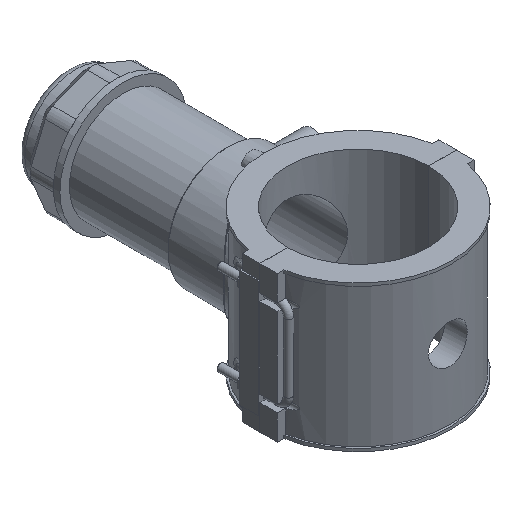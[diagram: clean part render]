
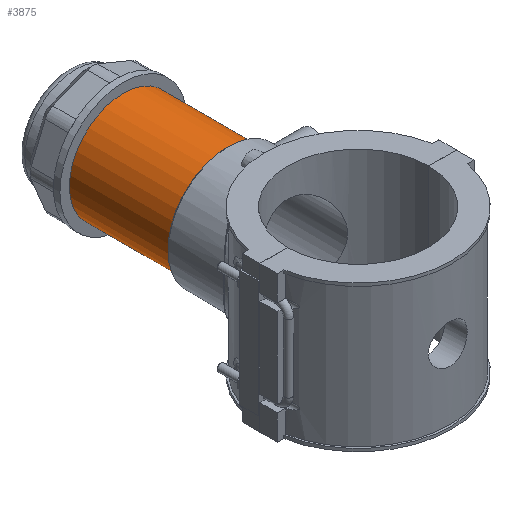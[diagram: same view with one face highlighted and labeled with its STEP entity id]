
A CAD part, isometric view. The second image highlights one B-rep face of the part: STEP entity #3875.
In plain terms, the highlighted cylindrical face has radius 43.643 mm (diameter 87.287 mm), a full revolution.
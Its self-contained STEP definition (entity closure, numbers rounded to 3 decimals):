
#57=FACE_BOUND('',#568,.T.);
#85=B_SPLINE_CURVE_WITH_KNOTS('',3,(#5797,#5798,#5799,#5800,#5801,#5802,
#5803,#5804,#5805,#5806),.UNSPECIFIED.,.F.,.F.,(4,2,2,2,4),(0.,0.401,
0.802,1.203,1.604),.UNSPECIFIED.);
#86=B_SPLINE_CURVE_WITH_KNOTS('',3,(#5807,#5808,#5809,#5810,#5811,#5812,
#5813,#5814,#5815,#5816,#5817,#5818,#5819,#5820,#5821,#5822,#5823,#5824,
#5825,#5826,#5827,#5828,#5829,#5830,#5831,#5832),.UNSPECIFIED.,.F.,.F.,
(4,2,2,2,2,2,2,2,2,2,2,2,4),(1.604,2.005,2.406,
2.807,3.208,3.609,4.01,4.411,
4.812,5.213,5.614,6.015,6.416),
 .UNSPECIFIED.);
#347=FACE_OUTER_BOUND('',#567,.T.);
#567=EDGE_LOOP('',(#2858,#2859,#2860,#2861,#2862,#2863));
#568=EDGE_LOOP('',(#2864,#2865));
#798=CIRCLE('',#4156,43.643);
#799=CIRCLE('',#4157,43.643);
#812=CIRCLE('',#4184,43.643);
#813=CIRCLE('',#4185,43.643);
#987=LINE('',#6082,#1326);
#1326=VECTOR('',#4773,43.643);
#1624=VERTEX_POINT('',#5794);
#1625=VERTEX_POINT('',#5796);
#1687=VERTEX_POINT('',#6023);
#1688=VERTEX_POINT('',#6024);
#1702=VERTEX_POINT('',#6078);
#1703=VERTEX_POINT('',#6079);
#2011=EDGE_CURVE('',#1625,#1624,#85,.T.);
#2012=EDGE_CURVE('',#1624,#1625,#86,.T.);
#2107=EDGE_CURVE('',#1687,#1688,#798,.T.);
#2108=EDGE_CURVE('',#1688,#1687,#799,.T.);
#2133=EDGE_CURVE('',#1702,#1703,#812,.T.);
#2134=EDGE_CURVE('',#1703,#1702,#813,.T.);
#2135=EDGE_CURVE('',#1703,#1688,#987,.T.);
#2858=ORIENTED_EDGE('',*,*,#2133,.F.);
#2859=ORIENTED_EDGE('',*,*,#2134,.F.);
#2860=ORIENTED_EDGE('',*,*,#2135,.T.);
#2861=ORIENTED_EDGE('',*,*,#2108,.T.);
#2862=ORIENTED_EDGE('',*,*,#2107,.T.);
#2863=ORIENTED_EDGE('',*,*,#2135,.F.);
#2864=ORIENTED_EDGE('',*,*,#2011,.T.);
#2865=ORIENTED_EDGE('',*,*,#2012,.T.);
#3776=CYLINDRICAL_SURFACE('',#4183,43.643);
#3875=ADVANCED_FACE('',(#347,#57),#3776,.T.);
#4156=AXIS2_PLACEMENT_3D('',#6025,#4701,#4702);
#4157=AXIS2_PLACEMENT_3D('',#6026,#4703,#4704);
#4183=AXIS2_PLACEMENT_3D('',#6077,#4767,#4768);
#4184=AXIS2_PLACEMENT_3D('',#6080,#4769,#4770);
#4185=AXIS2_PLACEMENT_3D('',#6081,#4771,#4772);
#4701=DIRECTION('center_axis',(0.,1.,0.));
#4702=DIRECTION('ref_axis',(1.,0.,0.));
#4703=DIRECTION('center_axis',(0.,1.,0.));
#4704=DIRECTION('ref_axis',(1.,0.,0.));
#4767=DIRECTION('center_axis',(0.,1.,0.));
#4768=DIRECTION('ref_axis',(0.,0.,1.));
#4769=DIRECTION('center_axis',(0.,1.,0.));
#4770=DIRECTION('ref_axis',(1.,0.,0.));
#4771=DIRECTION('center_axis',(0.,1.,0.));
#4772=DIRECTION('ref_axis',(1.,0.,0.));
#4773=DIRECTION('',(0.,-1.,0.));
#5794=CARTESIAN_POINT('',(43.643,111.474,0.));
#5796=CARTESIAN_POINT('',(42.336,122.074,-10.6));
#5797=CARTESIAN_POINT('Ctrl Pts',(42.336,122.074,-10.6));
#5798=CARTESIAN_POINT('Ctrl Pts',(42.336,120.737,-10.6));
#5799=CARTESIAN_POINT('Ctrl Pts',(42.406,119.315,-10.332));
#5800=CARTESIAN_POINT('Ctrl Pts',(42.656,116.705,-9.248));
#5801=CARTESIAN_POINT('Ctrl Pts',(42.831,115.517,-8.434));
#5802=CARTESIAN_POINT('Ctrl Pts',(43.158,113.641,-6.557));
#5803=CARTESIAN_POINT('Ctrl Pts',(43.332,112.826,-5.369));
#5804=CARTESIAN_POINT('Ctrl Pts',(43.576,111.742,-2.759));
#5805=CARTESIAN_POINT('Ctrl Pts',(43.643,111.474,-1.337));
#5806=CARTESIAN_POINT('Ctrl Pts',(43.643,111.474,0.));
#5807=CARTESIAN_POINT('Ctrl Pts',(43.643,111.474,0.));
#5808=CARTESIAN_POINT('Ctrl Pts',(43.643,111.474,1.337));
#5809=CARTESIAN_POINT('Ctrl Pts',(43.576,111.742,2.759));
#5810=CARTESIAN_POINT('Ctrl Pts',(43.332,112.826,5.369));
#5811=CARTESIAN_POINT('Ctrl Pts',(43.158,113.641,6.557));
#5812=CARTESIAN_POINT('Ctrl Pts',(42.831,115.517,8.434));
#5813=CARTESIAN_POINT('Ctrl Pts',(42.656,116.705,9.248));
#5814=CARTESIAN_POINT('Ctrl Pts',(42.406,119.315,10.332));
#5815=CARTESIAN_POINT('Ctrl Pts',(42.336,120.737,10.6));
#5816=CARTESIAN_POINT('Ctrl Pts',(42.336,123.411,10.6));
#5817=CARTESIAN_POINT('Ctrl Pts',(42.406,124.833,10.332));
#5818=CARTESIAN_POINT('Ctrl Pts',(42.656,127.443,9.248));
#5819=CARTESIAN_POINT('Ctrl Pts',(42.831,128.631,8.434));
#5820=CARTESIAN_POINT('Ctrl Pts',(43.158,130.507,6.557));
#5821=CARTESIAN_POINT('Ctrl Pts',(43.332,131.322,5.369));
#5822=CARTESIAN_POINT('Ctrl Pts',(43.576,132.406,2.759));
#5823=CARTESIAN_POINT('Ctrl Pts',(43.643,132.674,1.337));
#5824=CARTESIAN_POINT('Ctrl Pts',(43.643,132.674,-1.337));
#5825=CARTESIAN_POINT('Ctrl Pts',(43.576,132.406,-2.759));
#5826=CARTESIAN_POINT('Ctrl Pts',(43.332,131.322,-5.369));
#5827=CARTESIAN_POINT('Ctrl Pts',(43.158,130.507,-6.557));
#5828=CARTESIAN_POINT('Ctrl Pts',(42.831,128.631,-8.434));
#5829=CARTESIAN_POINT('Ctrl Pts',(42.656,127.443,-9.248));
#5830=CARTESIAN_POINT('Ctrl Pts',(42.406,124.833,-10.332));
#5831=CARTESIAN_POINT('Ctrl Pts',(42.336,123.411,-10.6));
#5832=CARTESIAN_POINT('Ctrl Pts',(42.336,122.074,-10.6));
#6023=CARTESIAN_POINT('',(0.,106.032,43.643));
#6024=CARTESIAN_POINT('',(0.,106.032,-43.643));
#6025=CARTESIAN_POINT('Origin',(0.,106.032,0.));
#6026=CARTESIAN_POINT('Origin',(0.,106.032,0.));
#6077=CARTESIAN_POINT('Origin',(0.,147.93,0.));
#6078=CARTESIAN_POINT('',(0.,189.829,43.643));
#6079=CARTESIAN_POINT('',(0.,189.829,-43.643));
#6080=CARTESIAN_POINT('Origin',(0.,189.829,0.));
#6081=CARTESIAN_POINT('Origin',(0.,189.829,0.));
#6082=CARTESIAN_POINT('',(0.,147.93,-43.643));
